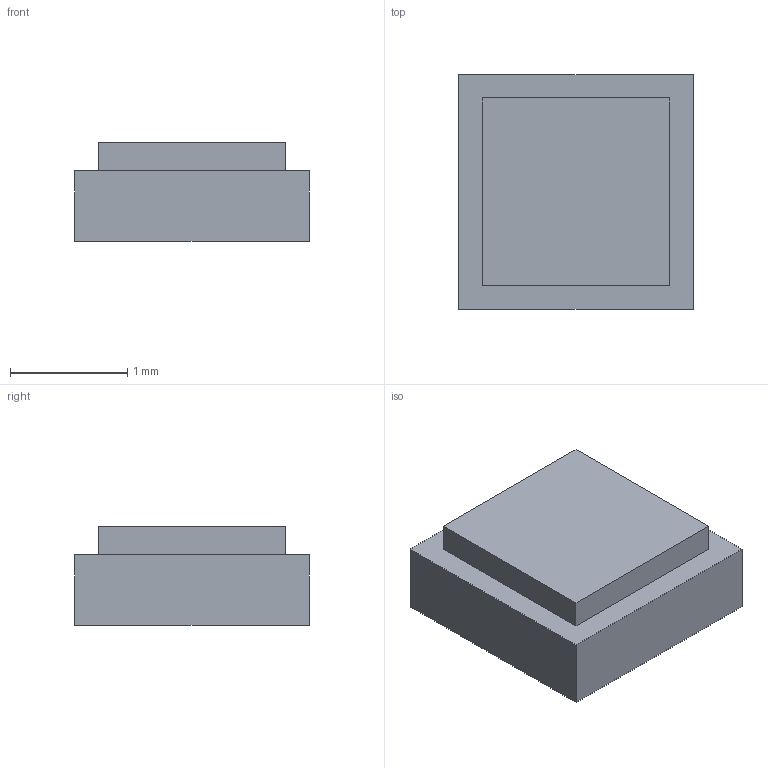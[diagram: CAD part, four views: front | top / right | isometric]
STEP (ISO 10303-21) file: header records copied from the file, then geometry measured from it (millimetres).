
FILE_DESCRIPTION(('Open CASCADE Model'),'2;1');
FILE_NAME('Open CASCADE Shape Model','2026-10-12T20:38:35',('Author'),( 'Open CASCADE'),'Open CASCADE STEP processor 8.0','build123d', 'Unknown');
FILE_SCHEMA(('AUTOMOTIVE_DESIGN { 1 0 10303 214 1 1 1 1 }'));
Length unit declared in the file: millimetre
Products named in the file (3): COMPOUND
Assembly tree (2 placements, depth 2):
  COMPOUND
    COMPOUND
    COMPOUND
Bounding box: 2 x 2 x 0.84 mm (x, y, z)
Volume: 3 mm3; surface area: 19.5 mm2
Topology: 2 solids, 2 shells, 12 faces, 24 edges, 16 vertices
Faces by surface type: plane 12
Entity records: 694 total; most frequent: CARTESIAN_POINT 103, DIRECTION 102, LINE 72, VECTOR 72, ORIENTED_EDGE 48, PCURVE 48, DEFINITIONAL_REPRESENTATION 48, EDGE_CURVE 24
